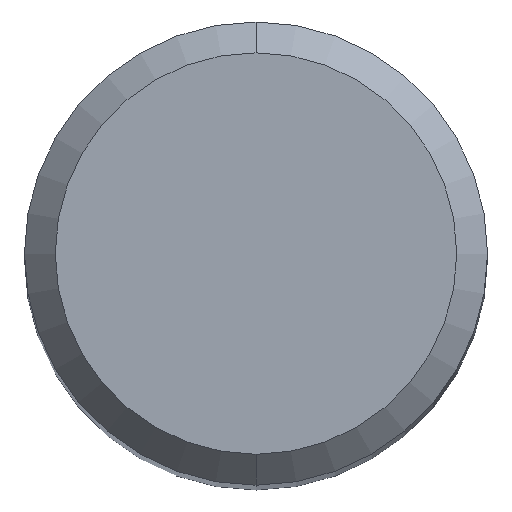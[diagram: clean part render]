
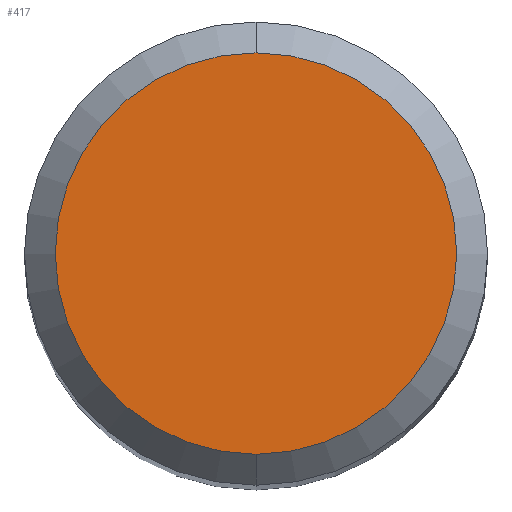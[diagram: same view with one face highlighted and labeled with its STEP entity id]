
A CAD part, top view. The second image highlights one B-rep face of the part: STEP entity #417.
In plain terms, the highlighted planar face has unit normal (0, 0, 1).
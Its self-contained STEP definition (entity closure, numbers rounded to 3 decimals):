
#417=ADVANCED_FACE('',(#813),#814,.T.);
#517=VERTEX_POINT('',#924);
#521=VERTEX_POINT('',#929);
#547=EDGE_CURVE('',#517,#521,#960,.T.);
#565=EDGE_CURVE('',#521,#517,#981,.T.);
#813=FACE_OUTER_BOUND('',#1452,.T.);
#814=PLANE('',#1453);
#924=CARTESIAN_POINT('',(0.,-2.6,0.0));
#929=CARTESIAN_POINT('',(0.0,2.6,0.0));
#960=CIRCLE('',#1697,2.6);
#981=CIRCLE('',#1723,2.6);
#1452=EDGE_LOOP('',(#1983,#1984));
#1453=AXIS2_PLACEMENT_3D('',#1985,#1986,#1987);
#1697=AXIS2_PLACEMENT_3D('',#2156,#2157,#2158);
#1723=AXIS2_PLACEMENT_3D('',#2182,#2183,#2184);
#1983=ORIENTED_EDGE('',*,*,#565,.F.);
#1984=ORIENTED_EDGE('',*,*,#547,.F.);
#1985=CARTESIAN_POINT('',(0.0,1.3,0.0));
#1986=DIRECTION('',(-0.0,0.0,1.0));
#1987=DIRECTION('',(0.0,-1.0,0.0));
#2156=CARTESIAN_POINT('',(0.0,0.0,0.0));
#2157=DIRECTION('',(0.0,0.0,-1.0));
#2158=DIRECTION('',(0.0,1.0,0.0));
#2182=CARTESIAN_POINT('',(0.0,0.0,0.0));
#2183=DIRECTION('',(0.0,0.0,-1.0));
#2184=DIRECTION('',(0.0,1.0,0.0));
